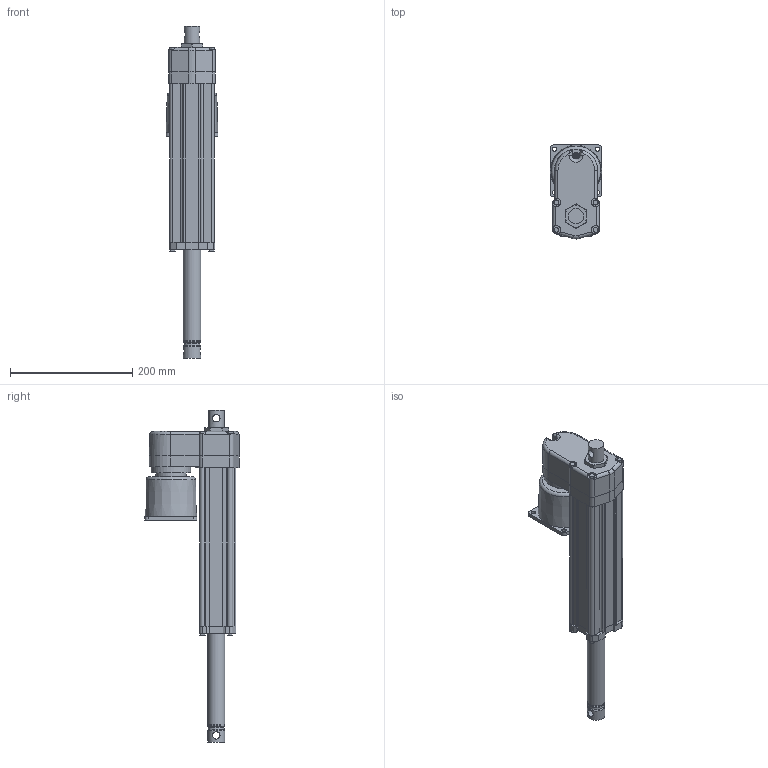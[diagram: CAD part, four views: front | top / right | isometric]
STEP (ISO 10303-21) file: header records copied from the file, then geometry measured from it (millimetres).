
FILE_DESCRIPTION (( 'STEP AP214' ), '1' );
FILE_NAME ('FA14-05B65M15M0_tollo.step', '2020-04-15T18:25:04', ( '' ), ( '' ), 'SwSTEP 2.0', 'SolidWorks 2010', '' );
FILE_SCHEMA (( 'AUTOMOTIVE_DESIGN' ));
Length unit declared in the file: millimetre
Products named in the file (9): Electrak-FA14-House-Ball-Tollo; Electrak-FA14-Rear-Tollo; Electrak-FA14-Motor-Tollo; Electrak-FA14-Tube-Ball-Tollo; Electrak-FA14-Plate-Tollo; Screw-MRT-TT-M5; Screw-M6S-M5; Electrak-FA14-Rod-Ball-Tollo; FA14-05B65M15M0_tollo
Assembly tree (15 placements, depth 3):
  FA14-05B65M15M0_tollo
    Electrak-FA14-House-Ball-Tollo
      Screw-M6S-M5  x8
      Electrak-FA14-Tube-Ball-Tollo
      Electrak-FA14-Rear-Tollo
      Electrak-FA14-Plate-Tollo
      Electrak-FA14-Motor-Tollo
      Screw-MRT-TT-M5
    Electrak-FA14-Rod-Ball-Tollo
Bounding box: 85 x 154.18 x 544 mm (x, y, z)
Volume: 1194496.4 mm3; surface area: 320170.8 mm2
Topology: 14 solids, 14 shells, 509 faces, 1279 edges, 826 vertices
Faces by surface type: plane 234, cylinder 198, cone 57, torus 18, bspline 2
Full cylindrical faces by diameter (mm): 4.126 x8, 4.8 x6, 5 x8, 5.6 x4, 6 x1, 7 x4, 7.878 x8, 9.5 x1, 11.741 x1, 12.2 x2, 25.4 x1, 28.5 x4, 34.5 x1, 47.625 x1, 50 x1, 65 x1, 80 x1
Entity records: 11671 total; most frequent: CARTESIAN_POINT 2704, DIRECTION 1857, ORIENTED_EDGE 1700, EDGE_CURVE 850, AXIS2_PLACEMENT_3D 686, VERTEX_POINT 577, VECTOR 485, LINE 485
